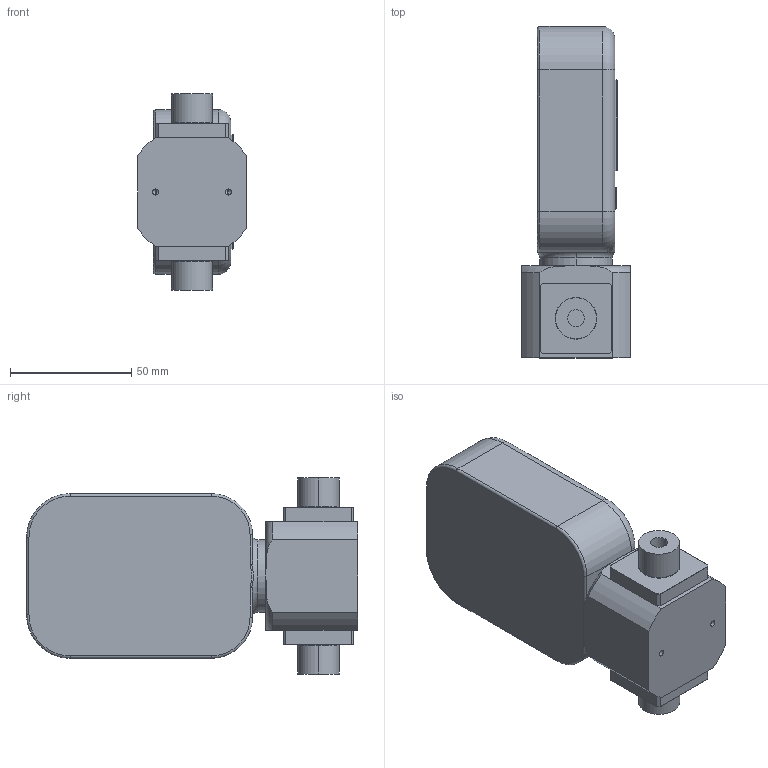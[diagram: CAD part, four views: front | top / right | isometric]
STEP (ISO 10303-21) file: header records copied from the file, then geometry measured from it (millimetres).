
FILE_DESCRIPTION (( 'STEP AP203' ), '1' );
FILE_NAME ('重庆捷定力 MF5708 流量计3D图 STEP.STEP', '2023-07-17T08:19:49', ( '微软用户' ), ( '微软中国' ), 'SwSTEP 2.0', 'SolidWorks 2016', '' );
FILE_SCHEMA (( 'CONFIG_CONTROL_DESIGN' ));
Length unit declared in the file: millimetre
Products named in the file (1): 重庆捷定力 MF5708 流量计3D图 STEP
Bounding box: 45 x 137.1 x 81 mm (x, y, z)
Volume: 285476.8 mm3; surface area: 33430.8 mm2
Topology: 1 solids, 1 shells, 185 faces, 430 edges, 254 vertices
Faces by surface type: plane 89, cylinder 51, cone 18, torus 16, bspline 11
Entity records: 7124 total; most frequent: CARTESIAN_POINT 2939, DIRECTION 860, ORIENTED_EDGE 840, EDGE_CURVE 420, AXIS2_PLACEMENT_3D 302, VECTOR 256, LINE 256, VERTEX_POINT 254
